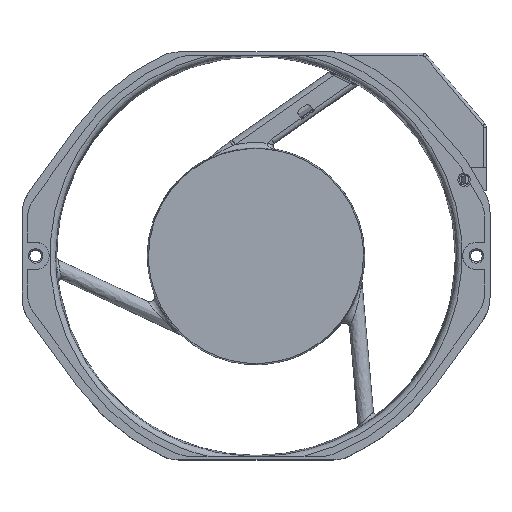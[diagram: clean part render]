
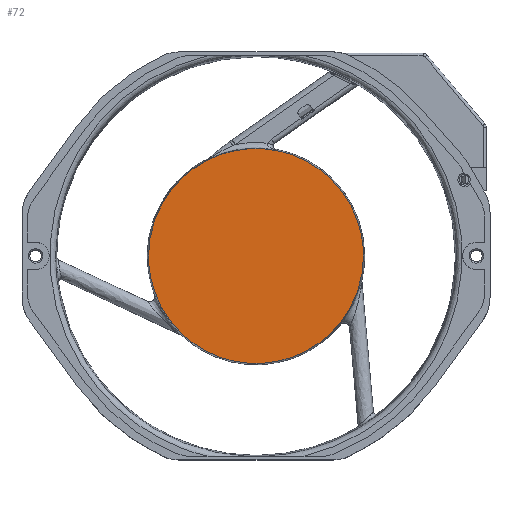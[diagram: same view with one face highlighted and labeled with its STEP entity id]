
A CAD part, top view. The second image highlights one B-rep face of the part: STEP entity #72.
In plain terms, the highlighted planar face has unit normal (0, 0, 1).
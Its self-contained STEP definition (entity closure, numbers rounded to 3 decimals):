
#72=ADVANCED_FACE('',(#767),#12088,.T.);
#767=FACE_OUTER_BOUND('',#1462,.T.);
#1462=EDGE_LOOP('',(#2194,#2195));
#2194=ORIENTED_EDGE('',*,*,#6255,.F.);
#2195=ORIENTED_EDGE('',*,*,#6254,.F.);
#6254=EDGE_CURVE('',#10402,#10403,#10000,.T.);
#6255=EDGE_CURVE('',#10403,#10402,#10001,.T.);
#10000=(
BOUNDED_CURVE()
B_SPLINE_CURVE(2,(#30606,#30607,#30608,#30609,#30610),.UNSPECIFIED.,.F.,
 .F.)
B_SPLINE_CURVE_WITH_KNOTS((3,2,3),(-1.,-0.5,0.),
 .UNSPECIFIED.)
CURVE()
GEOMETRIC_REPRESENTATION_ITEM()
RATIONAL_B_SPLINE_CURVE((1.,0.707,1.,0.707,1.))
REPRESENTATION_ITEM('')
);
#10001=(
BOUNDED_CURVE()
B_SPLINE_CURVE(2,(#30611,#30612,#30613,#30614,#30615),.UNSPECIFIED.,.F.,
 .F.)
B_SPLINE_CURVE_WITH_KNOTS((3,2,3),(0.,0.5,1.),
 .UNSPECIFIED.)
CURVE()
GEOMETRIC_REPRESENTATION_ITEM()
RATIONAL_B_SPLINE_CURVE((1.,0.707,1.,0.707,1.))
REPRESENTATION_ITEM('')
);
#10402=VERTEX_POINT('',#29276);
#10403=VERTEX_POINT('',#29277);
#12088=PLANE('',#12451);
#12451=AXIS2_PLACEMENT_3D('',#13143,#12797,$);
#12797=DIRECTION('',(0.,0.,1.));
#13143=CARTESIAN_POINT('',(-40.29,40.29,-21.58));
#29276=CARTESIAN_POINT('',(39.5,0.,-21.58));
#29277=CARTESIAN_POINT('',(-39.5,0.,-21.58));
#30606=CARTESIAN_POINT('',(39.5,0.,-21.58));
#30607=CARTESIAN_POINT('',(39.5,-39.5,-21.58));
#30608=CARTESIAN_POINT('',(0.,-39.5,-21.58));
#30609=CARTESIAN_POINT('',(-39.5,-39.5,-21.58));
#30610=CARTESIAN_POINT('',(-39.5,0.,-21.58));
#30611=CARTESIAN_POINT('',(-39.5,0.,-21.58));
#30612=CARTESIAN_POINT('',(-39.5,39.5,-21.58));
#30613=CARTESIAN_POINT('',(0.,39.5,-21.58));
#30614=CARTESIAN_POINT('',(39.5,39.5,-21.58));
#30615=CARTESIAN_POINT('',(39.5,0.,-21.58));
